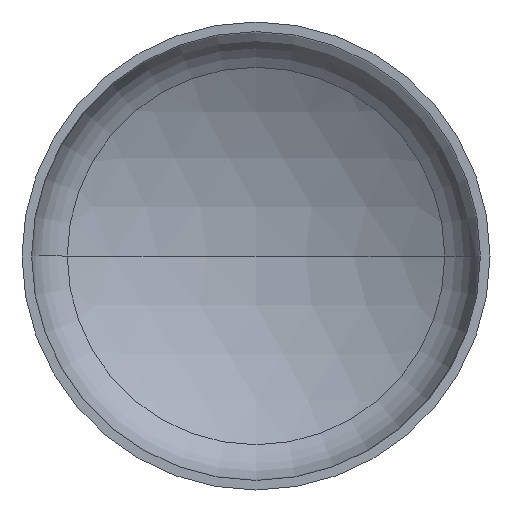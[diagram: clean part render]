
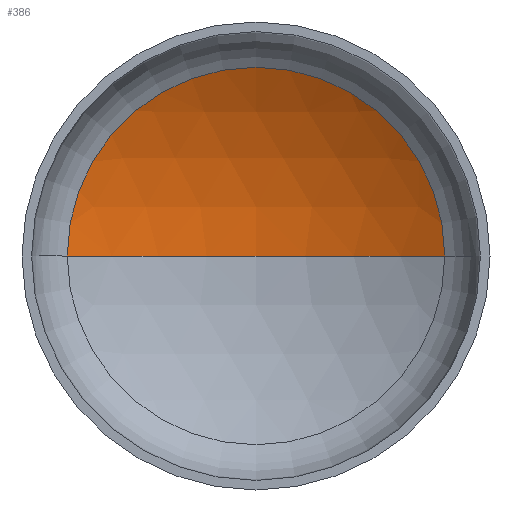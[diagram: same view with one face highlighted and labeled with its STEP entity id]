
A CAD part, front view. The second image highlights one B-rep face of the part: STEP entity #386.
In plain terms, the highlighted spherical face has radius 3200 mm.
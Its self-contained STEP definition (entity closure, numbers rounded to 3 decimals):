
#1 = AXIS2_PLACEMENT_3D ( 'NONE', #162, #156, #271 ) ;
#12 = AXIS2_PLACEMENT_3D ( 'NONE', #166, #399, #332 ) ;
#14 = AXIS2_PLACEMENT_3D ( 'NONE', #189, #359, #130 ) ;
#26 = EDGE_LOOP ( 'NONE', ( #157, #117, #59 ) ) ;
#31 = VERTEX_POINT ( 'NONE', #375 ) ;
#46 = AXIS2_PLACEMENT_3D ( 'NONE', #175, #178, #143 ) ;
#59 = ORIENTED_EDGE ( 'NONE', *, *, #351, .T. ) ;
#102 = VERTEX_POINT ( 'NONE', #205 ) ;
#103 = SPHERICAL_SURFACE ( 'NONE', #1, 3200. ) ;
#117 = ORIENTED_EDGE ( 'NONE', *, *, #354, .T. ) ;
#127 = CIRCLE ( 'NONE', #14, 3200. ) ;
#130 = DIRECTION ( 'NONE',  ( -1., 0., 0. ) ) ;
#141 = VERTEX_POINT ( 'NONE', #201 ) ;
#143 = DIRECTION ( 'NONE',  ( 1., 0., 0. ) ) ;
#156 = DIRECTION ( 'NONE',  ( 0., 0., -1. ) ) ;
#157 = ORIENTED_EDGE ( 'NONE', *, *, #357, .F. ) ;
#162 = CARTESIAN_POINT ( 'NONE',  ( 0., -2132.581, 0. ) ) ;
#166 = CARTESIAN_POINT ( 'NONE',  ( 0., -2132.581, 0. ) ) ;
#175 = CARTESIAN_POINT ( 'NONE',  ( 0., 631.156, 0. ) ) ;
#178 = DIRECTION ( 'NONE',  ( 0., -1., 0. ) ) ;
#189 = CARTESIAN_POINT ( 'NONE',  ( 0., -2132.581, 0. ) ) ;
#199 = FACE_OUTER_BOUND ( 'NONE', #26, .T. ) ;
#201 = CARTESIAN_POINT ( 'NONE',  ( -1612.998, 631.156, 0. ) ) ;
#205 = CARTESIAN_POINT ( 'NONE',  ( 0., 1067.419, 0. ) ) ;
#268 = CIRCLE ( 'NONE', #46, 1612.998 ) ;
#271 = DIRECTION ( 'NONE',  ( -1., 0., 0. ) ) ;
#332 = DIRECTION ( 'NONE',  ( 1., 0., 0. ) ) ;
#351 = EDGE_CURVE ( 'NONE', #31, #141, #268, .T. ) ;
#354 = EDGE_CURVE ( 'NONE', #102, #31, #127, .T. ) ;
#357 = EDGE_CURVE ( 'NONE', #102, #141, #387, .T. ) ;
#359 = DIRECTION ( 'NONE',  ( 0., 0., -1. ) ) ;
#375 = CARTESIAN_POINT ( 'NONE',  ( 1612.998, 631.156, 0. ) ) ;
#386 = ADVANCED_FACE ( 'NONE', ( #199 ), #103, .F. ) ;
#387 = CIRCLE ( 'NONE', #12, 3200. ) ;
#399 = DIRECTION ( 'NONE',  ( 0., 0., 1. ) ) ;
